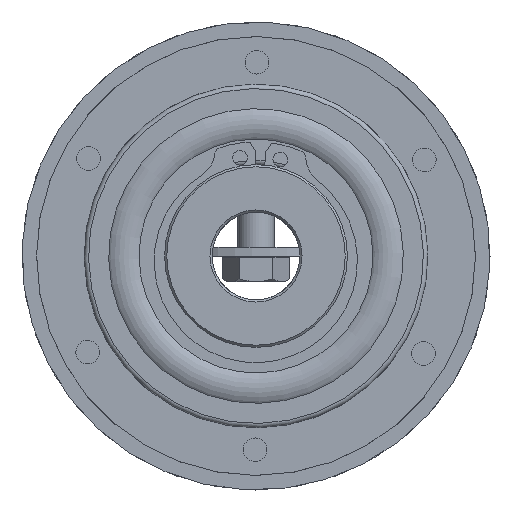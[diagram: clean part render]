
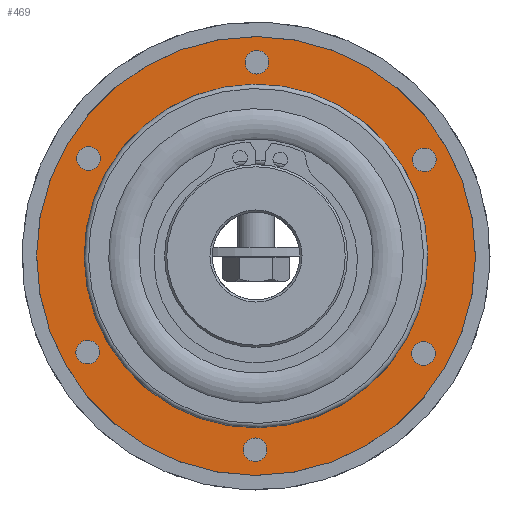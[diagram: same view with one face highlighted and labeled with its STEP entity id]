
A CAD part, left-side view. The second image highlights one B-rep face of the part: STEP entity #469.
In plain terms, the highlighted planar face has unit normal (-1, 0, 0).
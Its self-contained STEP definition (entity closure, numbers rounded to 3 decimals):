
#469 = ADVANCED_FACE( '', ( #815, #816, #817, #818, #819, #820, #821, #822 ), #823, .F. );
#815 = FACE_OUTER_BOUND( '', #1261, .T. );
#816 = FACE_BOUND( '', #1262, .T. );
#817 = FACE_BOUND( '', #1263, .T. );
#818 = FACE_BOUND( '', #1264, .T. );
#819 = FACE_BOUND( '', #1265, .T. );
#820 = FACE_BOUND( '', #1266, .T. );
#821 = FACE_BOUND( '', #1267, .T. );
#822 = FACE_BOUND( '', #1268, .T. );
#823 = PLANE( '', #1269 );
#1261 = EDGE_LOOP( '', ( #1927 ) );
#1262 = EDGE_LOOP( '', ( #1928 ) );
#1263 = EDGE_LOOP( '', ( #1929 ) );
#1264 = EDGE_LOOP( '', ( #1930 ) );
#1265 = EDGE_LOOP( '', ( #1931 ) );
#1266 = EDGE_LOOP( '', ( #1932 ) );
#1267 = EDGE_LOOP( '', ( #1933 ) );
#1268 = EDGE_LOOP( '', ( #1934 ) );
#1269 = AXIS2_PLACEMENT_3D( '', #1935, #1936, #1937 );
#1927 = ORIENTED_EDGE( '', *, *, #2561, .T. );
#1928 = ORIENTED_EDGE( '', *, *, #2562, .T. );
#1929 = ORIENTED_EDGE( '', *, *, #2559, .T. );
#1930 = ORIENTED_EDGE( '', *, *, #2556, .T. );
#1931 = ORIENTED_EDGE( '', *, *, #2558, .T. );
#1932 = ORIENTED_EDGE( '', *, *, #2563, .T. );
#1933 = ORIENTED_EDGE( '', *, *, #2564, .T. );
#1934 = ORIENTED_EDGE( '', *, *, #2565, .F. );
#1935 = CARTESIAN_POINT( '', ( -12.15, 30., 0. ) );
#1936 = DIRECTION( '', ( 1., 0., 0. ) );
#1937 = DIRECTION( '', ( 0., 1., 0. ) );
#2556 = EDGE_CURVE( '', #2909, #2909, #2910, .T. );
#2558 = EDGE_CURVE( '', #2913, #2913, #2914, .T. );
#2559 = EDGE_CURVE( '', #2915, #2915, #2916, .T. );
#2561 = EDGE_CURVE( '', #2919, #2919, #2920, .T. );
#2562 = EDGE_CURVE( '', #2921, #2921, #2922, .T. );
#2563 = EDGE_CURVE( '', #2923, #2923, #2924, .T. );
#2564 = EDGE_CURVE( '', #2925, #2925, #2926, .T. );
#2565 = EDGE_CURVE( '', #2927, #2927, #2928, .T. );
#2909 = VERTEX_POINT( '', #3671 );
#2910 = CIRCLE( '', #3672, 1.621 );
#2913 = VERTEX_POINT( '', #3675 );
#2914 = CIRCLE( '', #3676, 1.621 );
#2915 = VERTEX_POINT( '', #3677 );
#2916 = CIRCLE( '', #3678, 1.621 );
#2919 = VERTEX_POINT( '', #3681 );
#2920 = CIRCLE( '', #3682, 30. );
#2921 = VERTEX_POINT( '', #3683 );
#2922 = CIRCLE( '', #3684, 1.621 );
#2923 = VERTEX_POINT( '', #3685 );
#2924 = CIRCLE( '', #3686, 1.621 );
#2925 = VERTEX_POINT( '', #3687 );
#2926 = CIRCLE( '', #3688, 1.621 );
#2927 = VERTEX_POINT( '', #3689 );
#2928 = CIRCLE( '', #3690, 23.5 );
#3671 = CARTESIAN_POINT( '', ( -12.15, 0., -28.121 ) );
#3672 = AXIS2_PLACEMENT_3D( '', #4280, #4281, #4282 );
#3675 = CARTESIAN_POINT( '', ( -12.15, -24.354, -14.061 ) );
#3676 = AXIS2_PLACEMENT_3D( '', #4286, #4287, #4288 );
#3677 = CARTESIAN_POINT( '', ( -12.15, 24.354, -14.061 ) );
#3678 = AXIS2_PLACEMENT_3D( '', #4289, #4290, #4291 );
#3681 = CARTESIAN_POINT( '', ( -12.15, 0., 30. ) );
#3682 = AXIS2_PLACEMENT_3D( '', #4295, #4296, #4297 );
#3683 = CARTESIAN_POINT( '', ( -12.15, 24.354, 14.061 ) );
#3684 = AXIS2_PLACEMENT_3D( '', #4298, #4299, #4300 );
#3685 = CARTESIAN_POINT( '', ( -12.15, -24.354, 14.061 ) );
#3686 = AXIS2_PLACEMENT_3D( '', #4301, #4302, #4303 );
#3687 = CARTESIAN_POINT( '', ( -12.15, 0., 28.121 ) );
#3688 = AXIS2_PLACEMENT_3D( '', #4304, #4305, #4306 );
#3689 = CARTESIAN_POINT( '', ( -12.15, 0., 23.5 ) );
#3690 = AXIS2_PLACEMENT_3D( '', #4307, #4308, #4309 );
#4280 = CARTESIAN_POINT( '', ( -12.15, 0., -26.5 ) );
#4281 = DIRECTION( '', ( 1., 0., 0. ) );
#4282 = DIRECTION( '', ( 0., 0., -1. ) );
#4286 = CARTESIAN_POINT( '', ( -12.15, -22.95, -13.25 ) );
#4287 = DIRECTION( '', ( 1., 0., 0. ) );
#4288 = DIRECTION( '', ( 0., -0.866, -0.5 ) );
#4289 = CARTESIAN_POINT( '', ( -12.15, 22.95, -13.25 ) );
#4290 = DIRECTION( '', ( 1., 0., 0. ) );
#4291 = DIRECTION( '', ( 0., 0.866, -0.5 ) );
#4295 = CARTESIAN_POINT( '', ( -12.15, 0., 0. ) );
#4296 = DIRECTION( '', ( -1., 0., 0. ) );
#4297 = DIRECTION( '', ( 0., 0., 1. ) );
#4298 = CARTESIAN_POINT( '', ( -12.15, 22.95, 13.25 ) );
#4299 = DIRECTION( '', ( 1., 0., 0. ) );
#4300 = DIRECTION( '', ( 0., 0.866, 0.5 ) );
#4301 = CARTESIAN_POINT( '', ( -12.15, -22.95, 13.25 ) );
#4302 = DIRECTION( '', ( 1., 0., 0. ) );
#4303 = DIRECTION( '', ( 0., -0.866, 0.5 ) );
#4304 = CARTESIAN_POINT( '', ( -12.15, 0., 26.5 ) );
#4305 = DIRECTION( '', ( 1., 0., 0. ) );
#4306 = DIRECTION( '', ( 0., 0., 1. ) );
#4307 = CARTESIAN_POINT( '', ( -12.15, 0., 0. ) );
#4308 = DIRECTION( '', ( -1., 0., 0. ) );
#4309 = DIRECTION( '', ( 0., 0., 1. ) );
